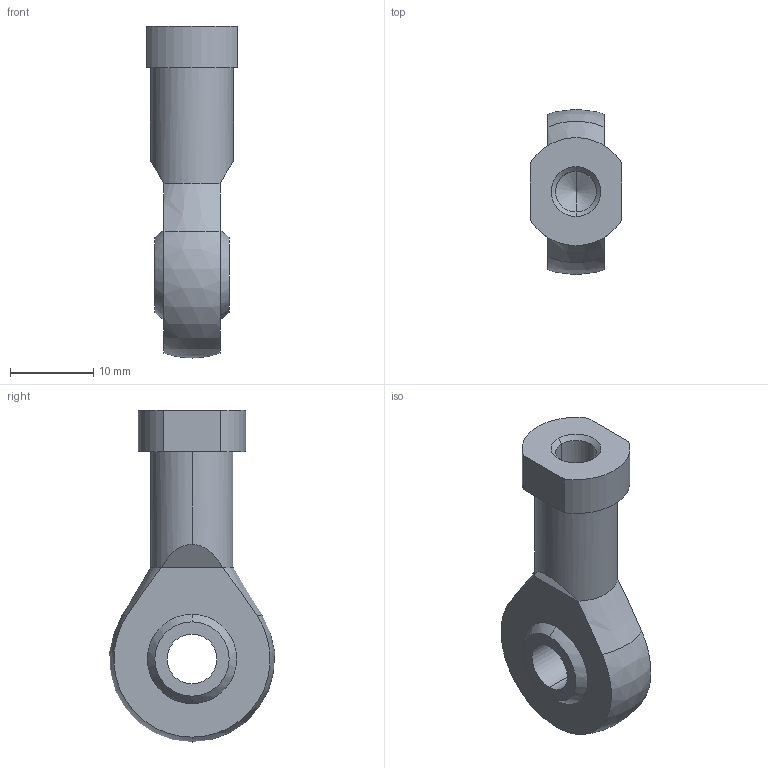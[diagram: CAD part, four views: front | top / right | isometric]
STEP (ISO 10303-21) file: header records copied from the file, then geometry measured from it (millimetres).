
FILE_DESCRIPTION( ( '' ), '1' );
FILE_NAME( '//expscmdclustefs.cadenas.external/client_exchange/iodir/jobs/output/wkb63665296_no0/STEP/DIN_ISO12240_4K_CF6_M6_ISO8139_2_14a.stp', '2013-10-02T14:19:52', ( '' ), ( '' ), ' ', ' ', ' ' );
FILE_SCHEMA( ( 'automotive_design' ) );
Length unit declared in the file: millimetre
Products named in the file (1): 1
Bounding box: 11 x 19.94 x 40 mm (x, y, z)
Volume: 3540.9 mm3; surface area: 2140.1 mm2
Topology: 1 solids, 1 shells, 30 faces, 70 edges, 42 vertices
Faces by surface type: plane 10, cylinder 8, cone 6, sphere 6
Entity records: 1648 total; most frequent: DIRECTION 166, CARTESIAN_POINT 147, STYLED_ITEM 139, PRESENTATION_STYLE_ASSIGNMENT 139, COLOUR_RGB 139, ORIENTED_EDGE 132, AXIS2_PLACEMENT_3D 73, EDGE_CURVE 66
